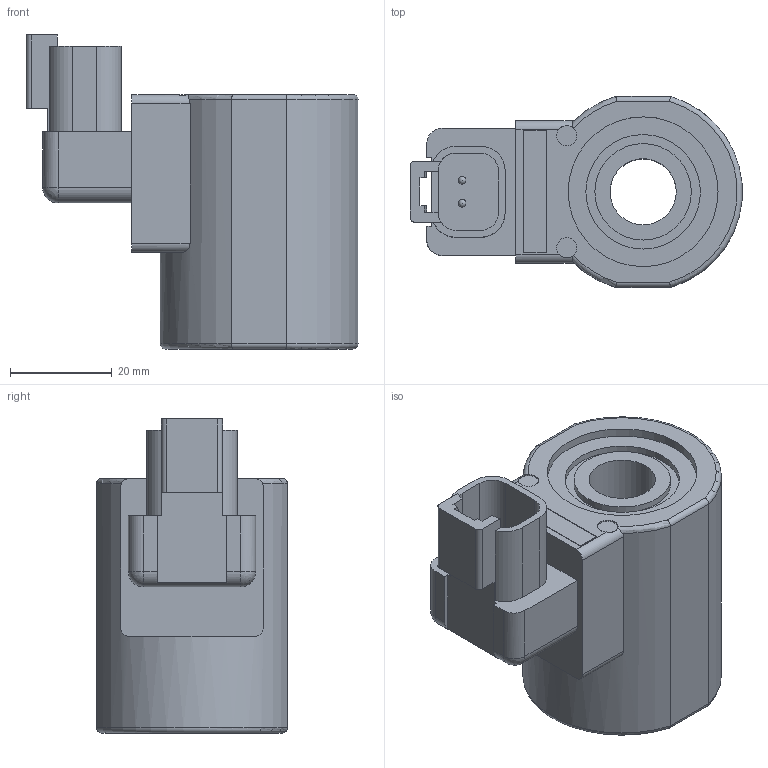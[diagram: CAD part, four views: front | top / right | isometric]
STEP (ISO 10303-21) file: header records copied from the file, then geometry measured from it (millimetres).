
FILE_DESCRIPTION((''),'2;1');
FILE_NAME('Q:\Delta CADD Insertion Codes\3D Solid models\Coils\STEP\DID.stp','2012-06-04T10:03:49',('Dan'),(''),'Autodesk Inventor 2012','Autodesk Inventor 2012','');
FILE_SCHEMA(('AUTOMOTIVE_DESIGN { 1 0 10303 214 1 1 1 1 }'));
Length unit declared in the file: inch
Products named in the file (1): Part12
Bounding box: 65.23 x 37.5 x 61.7 mm (x, y, z)
Volume: 64224.4 mm3; surface area: 15090.8 mm2
Topology: 1 solids, 1 shells, 101 faces, 269 edges, 175 vertices
Faces by surface type: plane 56, cylinder 36, torus 5, sphere 4
Full cylindrical faces by diameter (mm): 1.5 x2, 4 x2, 13.005 x1, 18.948 x2, 22.504 x2, 29.439 x2
Entity records: 3159 total; most frequent: CARTESIAN_POINT 708, DIRECTION 501, ORIENTED_EDGE 488, EDGE_CURVE 244, AXIS2_PLACEMENT_3D 173, VERTEX_POINT 164, VECTOR 155, LINE 155
